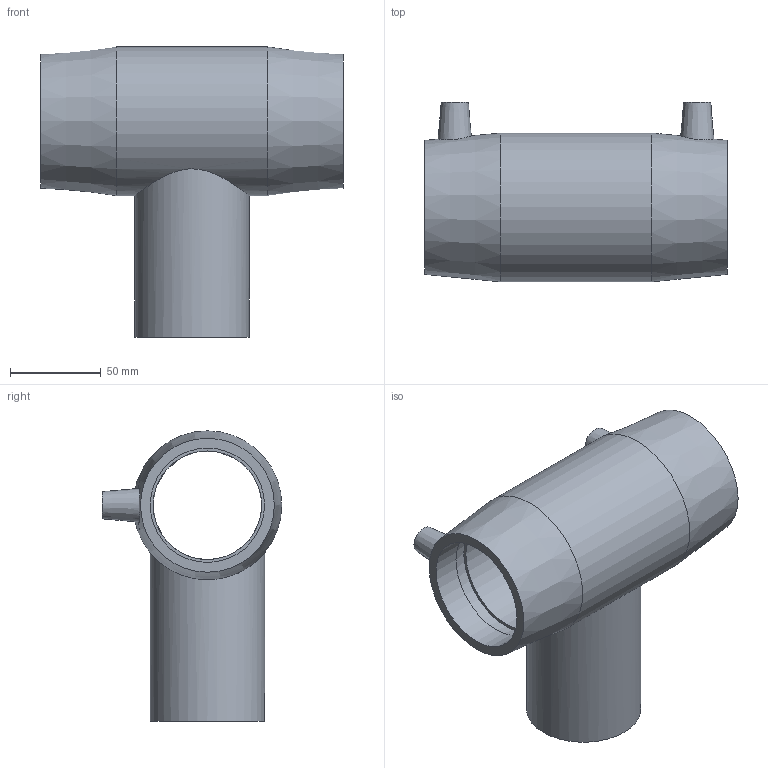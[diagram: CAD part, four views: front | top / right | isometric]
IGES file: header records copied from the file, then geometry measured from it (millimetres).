
Global section: file name: 490404063.ipt; native system: Autodesk Inventor 2015; preprocessor: unknown; author: KIM; date: 20171106.093612; units: millimetre
Bounding box: 167 x 99 x 160 mm (x, y, z)
Volume: 409601.9 mm3; surface area: 108103.2 mm2
Topology: 1 solids, 1 shells, 31 faces, 72 edges, 52 vertices
Faces by surface type: plane 13, revolution 10, cylinder 4, cone 4
Full cylindrical faces by diameter (mm): 4.8 x2, 63 x1, 82 x1
